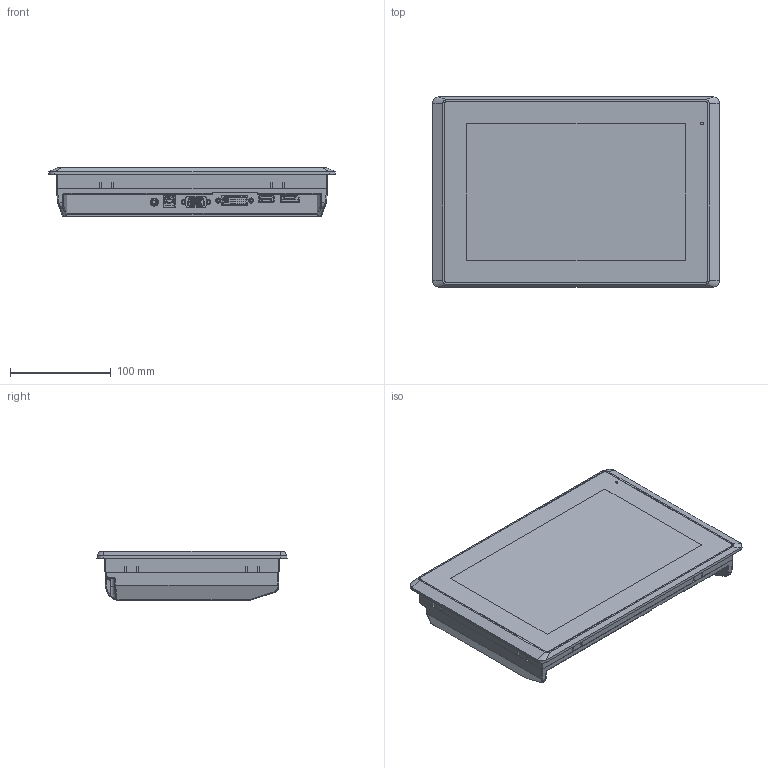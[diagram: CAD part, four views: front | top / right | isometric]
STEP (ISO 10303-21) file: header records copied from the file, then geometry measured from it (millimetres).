
FILE_DESCRIPTION (( 'STEP AP214' ), '1' );
FILE_NAME ('MON6010AP.STEP', '2022-05-06T17:03:43', ( '' ), ( '' ), 'SwSTEP 2.0', 'SolidWorks 2019', '' );
FILE_SCHEMA (( 'AUTOMOTIVE_DESIGN' ));
Products named in the file (1): MON6010AP
Bounding box: 285 x 189 x 48.9 mm (x, y, z)
Surface area: 183760.8 mm2 (no closed solid volume)
Topology: 0 solids, 3080 shells, 3086 faces, 16399 edges, 16389 vertices
Faces by surface type: plane 1850, cylinder 721, bspline 343, cone 139, torus 32, sphere 1
Entity records: 208322 total; most frequent: CARTESIAN_POINT 93289, DIRECTION 19230, ORIENTED_EDGE 16401, EDGE_CURVE 16395, VERTEX_POINT 16389, LINE 10144, VECTOR 10144, AXIS2_PLACEMENT_3D 4543
